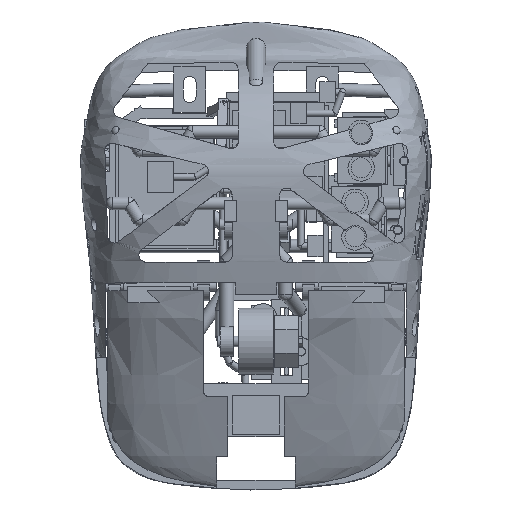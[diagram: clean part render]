
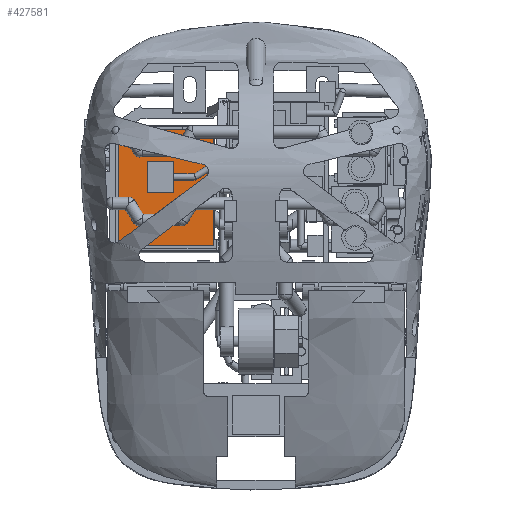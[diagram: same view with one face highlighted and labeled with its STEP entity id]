
A CAD part, top view. The second image highlights one B-rep face of the part: STEP entity #427581.
In plain terms, the highlighted planar face has unit normal (0, 0, 1).
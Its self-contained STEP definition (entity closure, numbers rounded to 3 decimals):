
#427267 = VERTEX_POINT('',#427268);
#427268 = CARTESIAN_POINT('',(-26.,46.,19.4));
#427275 = PLANE('',#427276);
#427276 = AXIS2_PLACEMENT_3D('',#427277,#427278,#427279);
#427277 = CARTESIAN_POINT('',(-26.,46.,13.4));
#427278 = DIRECTION('',(1.,0.,0.));
#427279 = DIRECTION('',(0.,0.,1.));
#427287 = PLANE('',#427288);
#427288 = AXIS2_PLACEMENT_3D('',#427289,#427290,#427291);
#427289 = CARTESIAN_POINT('',(-26.,46.,13.4));
#427290 = DIRECTION('',(0.,1.,0.));
#427291 = DIRECTION('',(0.,-0.,1.));
#427328 = VERTEX_POINT('',#427329);
#427329 = CARTESIAN_POINT('',(-26.,68.,19.4));
#427343 = PLANE('',#427344);
#427344 = AXIS2_PLACEMENT_3D('',#427345,#427346,#427347);
#427345 = CARTESIAN_POINT('',(-26.,68.,13.4));
#427346 = DIRECTION('',(0.,1.,0.));
#427347 = DIRECTION('',(0.,-0.,1.));
#427355 = EDGE_CURVE('',#427267,#427328,#427356,.T.);
#427356 = SURFACE_CURVE('',#427357,(#427361,#427368),.PCURVE_S1.);
#427357 = LINE('',#427358,#427359);
#427358 = CARTESIAN_POINT('',(-26.,46.,19.4));
#427359 = VECTOR('',#427360,1.);
#427360 = DIRECTION('',(0.,1.,0.));
#427361 = PCURVE('',#427275,#427362);
#427362 = DEFINITIONAL_REPRESENTATION('',(#427363),#427367);
#427363 = LINE('',#427364,#427365);
#427364 = CARTESIAN_POINT('',(6.,0.));
#427365 = VECTOR('',#427366,1.);
#427366 = DIRECTION('',(0.,-1.));
#427367 = ( GEOMETRIC_REPRESENTATION_CONTEXT(2) 
PARAMETRIC_REPRESENTATION_CONTEXT() REPRESENTATION_CONTEXT('2D SPACE',''
  ) );
#427368 = PCURVE('',#427369,#427374);
#427369 = PLANE('',#427370);
#427370 = AXIS2_PLACEMENT_3D('',#427371,#427372,#427373);
#427371 = CARTESIAN_POINT('',(-26.,46.,19.4));
#427372 = DIRECTION('',(0.,0.,1.));
#427373 = DIRECTION('',(1.,0.,-0.));
#427374 = DEFINITIONAL_REPRESENTATION('',(#427375),#427379);
#427375 = LINE('',#427376,#427377);
#427376 = CARTESIAN_POINT('',(0.,0.));
#427377 = VECTOR('',#427378,1.);
#427378 = DIRECTION('',(0.,1.));
#427379 = ( GEOMETRIC_REPRESENTATION_CONTEXT(2) 
PARAMETRIC_REPRESENTATION_CONTEXT() REPRESENTATION_CONTEXT('2D SPACE',''
  ) );
#427387 = VERTEX_POINT('',#427388);
#427388 = CARTESIAN_POINT('',(-8.,46.,19.4));
#427395 = PLANE('',#427396);
#427396 = AXIS2_PLACEMENT_3D('',#427397,#427398,#427399);
#427397 = CARTESIAN_POINT('',(-8.,46.,13.4));
#427398 = DIRECTION('',(1.,0.,0.));
#427399 = DIRECTION('',(0.,0.,1.));
#427438 = VERTEX_POINT('',#427439);
#427439 = CARTESIAN_POINT('',(-8.,68.,19.4));
#427460 = EDGE_CURVE('',#427387,#427438,#427461,.T.);
#427461 = SURFACE_CURVE('',#427462,(#427466,#427473),.PCURVE_S1.);
#427462 = LINE('',#427463,#427464);
#427463 = CARTESIAN_POINT('',(-8.,46.,19.4));
#427464 = VECTOR('',#427465,1.);
#427465 = DIRECTION('',(0.,1.,0.));
#427466 = PCURVE('',#427395,#427467);
#427467 = DEFINITIONAL_REPRESENTATION('',(#427468),#427472);
#427468 = LINE('',#427469,#427470);
#427469 = CARTESIAN_POINT('',(6.,0.));
#427470 = VECTOR('',#427471,1.);
#427471 = DIRECTION('',(0.,-1.));
#427472 = ( GEOMETRIC_REPRESENTATION_CONTEXT(2) 
PARAMETRIC_REPRESENTATION_CONTEXT() REPRESENTATION_CONTEXT('2D SPACE',''
  ) );
#427473 = PCURVE('',#427369,#427474);
#427474 = DEFINITIONAL_REPRESENTATION('',(#427475),#427479);
#427475 = LINE('',#427476,#427477);
#427476 = CARTESIAN_POINT('',(18.,0.));
#427477 = VECTOR('',#427478,1.);
#427478 = DIRECTION('',(0.,1.));
#427479 = ( GEOMETRIC_REPRESENTATION_CONTEXT(2) 
PARAMETRIC_REPRESENTATION_CONTEXT() REPRESENTATION_CONTEXT('2D SPACE',''
  ) );
#427506 = EDGE_CURVE('',#427267,#427387,#427507,.T.);
#427507 = SURFACE_CURVE('',#427508,(#427512,#427519),.PCURVE_S1.);
#427508 = LINE('',#427509,#427510);
#427509 = CARTESIAN_POINT('',(-26.,46.,19.4));
#427510 = VECTOR('',#427511,1.);
#427511 = DIRECTION('',(1.,0.,0.));
#427512 = PCURVE('',#427287,#427513);
#427513 = DEFINITIONAL_REPRESENTATION('',(#427514),#427518);
#427514 = LINE('',#427515,#427516);
#427515 = CARTESIAN_POINT('',(6.,0.));
#427516 = VECTOR('',#427517,1.);
#427517 = DIRECTION('',(0.,1.));
#427518 = ( GEOMETRIC_REPRESENTATION_CONTEXT(2) 
PARAMETRIC_REPRESENTATION_CONTEXT() REPRESENTATION_CONTEXT('2D SPACE',''
  ) );
#427519 = PCURVE('',#427369,#427520);
#427520 = DEFINITIONAL_REPRESENTATION('',(#427521),#427525);
#427521 = LINE('',#427522,#427523);
#427522 = CARTESIAN_POINT('',(0.,0.));
#427523 = VECTOR('',#427524,1.);
#427524 = DIRECTION('',(1.,0.));
#427525 = ( GEOMETRIC_REPRESENTATION_CONTEXT(2) 
PARAMETRIC_REPRESENTATION_CONTEXT() REPRESENTATION_CONTEXT('2D SPACE',''
  ) );
#427553 = EDGE_CURVE('',#427328,#427438,#427554,.T.);
#427554 = SURFACE_CURVE('',#427555,(#427559,#427566),.PCURVE_S1.);
#427555 = LINE('',#427556,#427557);
#427556 = CARTESIAN_POINT('',(-26.,68.,19.4));
#427557 = VECTOR('',#427558,1.);
#427558 = DIRECTION('',(1.,0.,0.));
#427559 = PCURVE('',#427343,#427560);
#427560 = DEFINITIONAL_REPRESENTATION('',(#427561),#427565);
#427561 = LINE('',#427562,#427563);
#427562 = CARTESIAN_POINT('',(6.,0.));
#427563 = VECTOR('',#427564,1.);
#427564 = DIRECTION('',(0.,1.));
#427565 = ( GEOMETRIC_REPRESENTATION_CONTEXT(2) 
PARAMETRIC_REPRESENTATION_CONTEXT() REPRESENTATION_CONTEXT('2D SPACE',''
  ) );
#427566 = PCURVE('',#427369,#427567);
#427567 = DEFINITIONAL_REPRESENTATION('',(#427568),#427572);
#427568 = LINE('',#427569,#427570);
#427569 = CARTESIAN_POINT('',(0.,22.));
#427570 = VECTOR('',#427571,1.);
#427571 = DIRECTION('',(1.,0.));
#427572 = ( GEOMETRIC_REPRESENTATION_CONTEXT(2) 
PARAMETRIC_REPRESENTATION_CONTEXT() REPRESENTATION_CONTEXT('2D SPACE',''
  ) );
#427581 = ADVANCED_FACE('',(#427582),#427369,.T.);
#427582 = FACE_BOUND('',#427583,.T.);
#427583 = EDGE_LOOP('',(#427584,#427585,#427586,#427587));
#427584 = ORIENTED_EDGE('',*,*,#427355,.F.);
#427585 = ORIENTED_EDGE('',*,*,#427506,.T.);
#427586 = ORIENTED_EDGE('',*,*,#427460,.T.);
#427587 = ORIENTED_EDGE('',*,*,#427553,.F.);
